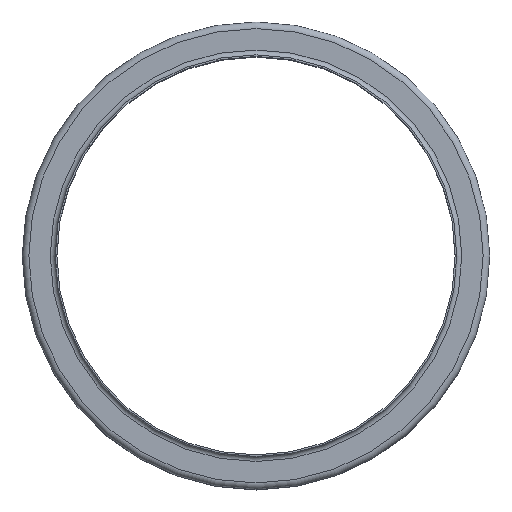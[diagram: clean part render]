
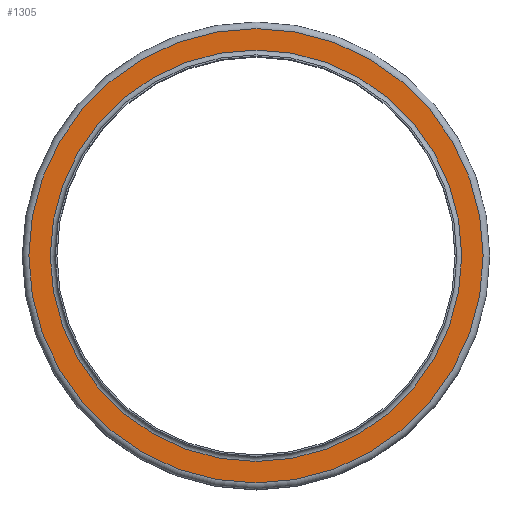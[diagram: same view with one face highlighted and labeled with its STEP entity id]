
A CAD part, top view. The second image highlights one B-rep face of the part: STEP entity #1305.
In plain terms, the highlighted planar face has unit normal (0, 0, 1).
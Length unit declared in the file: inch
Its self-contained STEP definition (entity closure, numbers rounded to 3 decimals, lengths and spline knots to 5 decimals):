
#130=FACE_BOUND('',#384,.T.);
#229=FACE_OUTER_BOUND('',#383,.T.);
#383=EDGE_LOOP('',(#1108));
#384=EDGE_LOOP('',(#1109));
#545=CIRCLE('',#1574,4.4555);
#546=CIRCLE('',#1576,4.9195);
#658=VERTEX_POINT('',#2470);
#659=VERTEX_POINT('',#2474);
#811=EDGE_CURVE('',#658,#658,#545,.T.);
#812=EDGE_CURVE('',#659,#659,#546,.T.);
#1108=ORIENTED_EDGE('',*,*,#812,.F.);
#1109=ORIENTED_EDGE('',*,*,#811,.T.);
#1206=PLANE('',#1575);
#1305=ADVANCED_FACE('',(#229,#130),#1206,.T.);
#1574=AXIS2_PLACEMENT_3D('',#2472,#2070,#2071);
#1575=AXIS2_PLACEMENT_3D('',#2473,#2072,#2073);
#1576=AXIS2_PLACEMENT_3D('',#2475,#2074,#2075);
#2070=DIRECTION('center_axis',(0.,0.,-1.));
#2071=DIRECTION('ref_axis',(1.,0.,0.));
#2072=DIRECTION('center_axis',(0.,0.,1.));
#2073=DIRECTION('ref_axis',(1.,0.,0.));
#2074=DIRECTION('center_axis',(0.,0.,-1.));
#2075=DIRECTION('ref_axis',(1.,0.,0.));
#2470=CARTESIAN_POINT('',(4.4555,0.,-0.107));
#2472=CARTESIAN_POINT('Origin',(0.,0.,-0.107));
#2473=CARTESIAN_POINT('Origin',(0.,4.9195,-0.107));
#2474=CARTESIAN_POINT('',(4.9195,0.,-0.107));
#2475=CARTESIAN_POINT('Origin',(0.,0.,-0.107));
